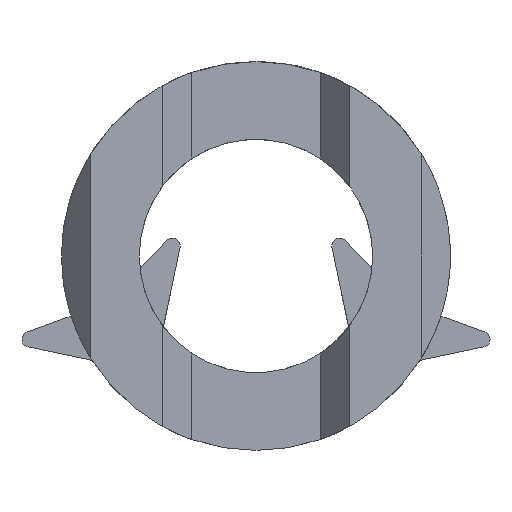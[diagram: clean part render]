
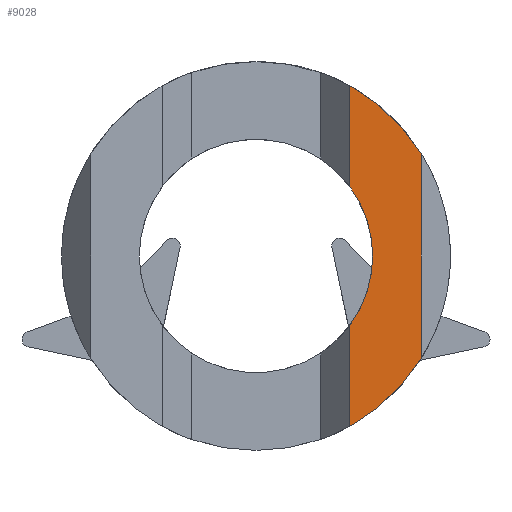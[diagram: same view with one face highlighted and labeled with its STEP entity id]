
A CAD part, front view. The second image highlights one B-rep face of the part: STEP entity #9028.
In plain terms, the highlighted planar face has unit normal (0, -1, 0).
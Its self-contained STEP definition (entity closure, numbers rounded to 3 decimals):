
#118=CIRCLE('',#9220,9.);
#119=CIRCLE('',#9221,15.);
#120=CIRCLE('',#9222,15.);
#225=PLANE('',#9219);
#689=FACE_OUTER_BOUND('',#1184,.T.);
#1184=EDGE_LOOP('',(#7865,#7866,#7867,#7868,#7869,#7870));
#1676=LINE('',#19585,#2202);
#1679=LINE('',#19597,#2205);
#1698=LINE('',#19648,#2224);
#2202=VECTOR('',#9976,10.);
#2205=VECTOR('',#9987,10.);
#2224=VECTOR('',#10034,10.);
#3892=VERTEX_POINT('',#19582);
#3893=VERTEX_POINT('',#19584);
#3895=VERTEX_POINT('',#19590);
#3898=VERTEX_POINT('',#19595);
#3915=VERTEX_POINT('',#19645);
#3916=VERTEX_POINT('',#19647);
#5234=EDGE_CURVE('',#3893,#3892,#1676,.T.);
#5240=EDGE_CURVE('',#3895,#3898,#1679,.T.);
#5263=EDGE_CURVE('',#3892,#3895,#118,.T.);
#5264=EDGE_CURVE('',#3898,#3915,#119,.T.);
#5265=EDGE_CURVE('',#3916,#3915,#1698,.T.);
#5266=EDGE_CURVE('',#3916,#3893,#120,.T.);
#7865=ORIENTED_EDGE('',*,*,#5263,.T.);
#7866=ORIENTED_EDGE('',*,*,#5240,.T.);
#7867=ORIENTED_EDGE('',*,*,#5264,.T.);
#7868=ORIENTED_EDGE('',*,*,#5265,.F.);
#7869=ORIENTED_EDGE('',*,*,#5266,.T.);
#7870=ORIENTED_EDGE('',*,*,#5234,.T.);
#9028=ADVANCED_FACE('',(#689),#225,.T.);
#9219=AXIS2_PLACEMENT_3D('',#19643,#10028,#10029);
#9220=AXIS2_PLACEMENT_3D('',#19644,#10030,#10031);
#9221=AXIS2_PLACEMENT_3D('',#19646,#10032,#10033);
#9222=AXIS2_PLACEMENT_3D('',#19649,#10035,#10036);
#9976=DIRECTION('',(0.,0.,-1.));
#9987=DIRECTION('',(0.,0.,-1.));
#10028=DIRECTION('center_axis',(0.,-1.,0.));
#10029=DIRECTION('ref_axis',(-1.,0.,0.));
#10030=DIRECTION('center_axis',(0.,1.,0.));
#10031=DIRECTION('ref_axis',(1.,0.,0.));
#10032=DIRECTION('center_axis',(0.,-1.,0.));
#10033=DIRECTION('ref_axis',(1.,0.,0.));
#10034=DIRECTION('',(0.,0.,-1.));
#10035=DIRECTION('center_axis',(0.,-1.,0.));
#10036=DIRECTION('ref_axis',(1.,0.,0.));
#19582=CARTESIAN_POINT('',(7.25,-6.,5.333));
#19584=CARTESIAN_POINT('',(7.25,-6.,13.132));
#19585=CARTESIAN_POINT('',(7.25,-6.,15.));
#19590=CARTESIAN_POINT('',(7.25,-6.,-5.333));
#19595=CARTESIAN_POINT('',(7.25,-6.,-13.132));
#19597=CARTESIAN_POINT('',(7.25,-6.,15.));
#19643=CARTESIAN_POINT('Origin',(12.75,-6.,15.));
#19644=CARTESIAN_POINT('Origin',(0.,-6.,0.));
#19645=CARTESIAN_POINT('',(12.75,-6.,-7.902));
#19646=CARTESIAN_POINT('Origin',(0.,-6.,0.));
#19647=CARTESIAN_POINT('',(12.75,-6.,7.902));
#19648=CARTESIAN_POINT('',(12.75,-6.,15.));
#19649=CARTESIAN_POINT('Origin',(0.,-6.,0.));
